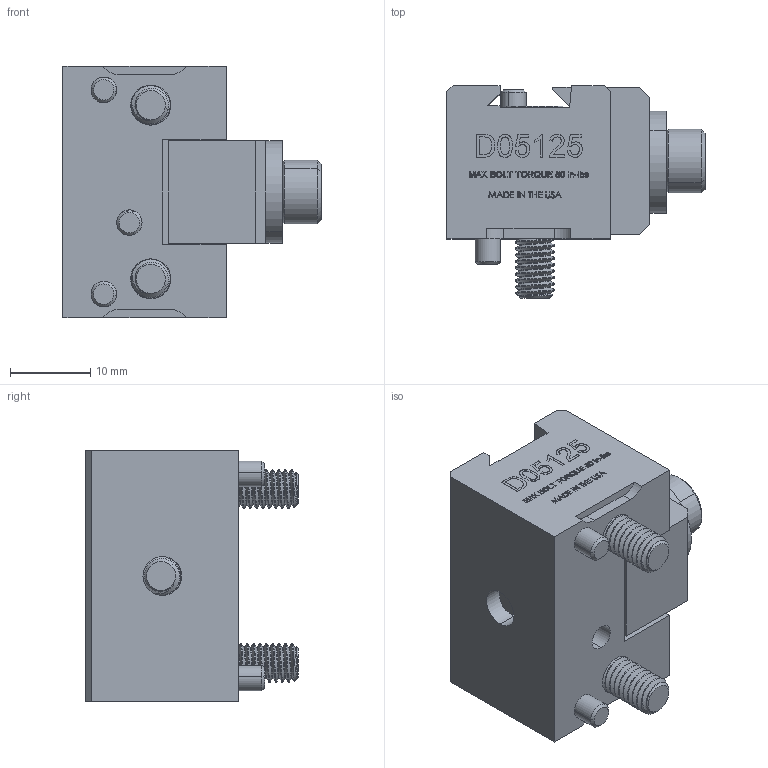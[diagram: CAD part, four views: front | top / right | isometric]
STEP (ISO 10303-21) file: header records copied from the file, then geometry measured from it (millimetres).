
FILE_DESCRIPTION (( 'STEP AP214' ), '1' );
FILE_NAME ('D05125.STEP', '2019-05-07T15:54:25', ( '' ), ( '' ), 'SwSTEP 2.0', 'SolidWorks 2018', '' );
FILE_SCHEMA (( 'AUTOMOTIVE_DESIGN' ));
Length unit declared in the file: inch
Products named in the file (9): 73040_HW.73040; 73044_HW.73044; HW.0236X0256.CS; 0.125X0.250_DEFAULT; 0.125X0.375_DEFAULT; HW.0203X0500.FW_DEFAULT; CLW10_CLW10; D05125-1_D051251WM-1; D05125
Assembly tree (10 placements, depth 2):
  D05125
    D05125-1_D051251WM-1
    CLW10_CLW10
    HW.0203X0500.FW_DEFAULT
    0.125X0.375_DEFAULT  x2
    0.125X0.250_DEFAULT
    HW.0236X0256.CS
    73044_HW.73044
    73040_HW.73040  x2
Bounding box: 32.09 x 26.42 x 31.24 mm (x, y, z)
Volume: 12483.2 mm3; surface area: 8534.5 mm2
Topology: 10 solids, 10 shells, 1208 faces, 3234 edges, 2135 vertices
Faces by surface type: plane 516, cylinder 369, bspline 272, cone 51
Entity records: 58773 total; most frequent: CARTESIAN_POINT 26038, ORIENTED_EDGE 5754, DIRECTION 3623, EDGE_CURVE 2877, VERTEX_POINT 1904, VECTOR 1733, LINE 1733, EDGE_LOOP 1177
